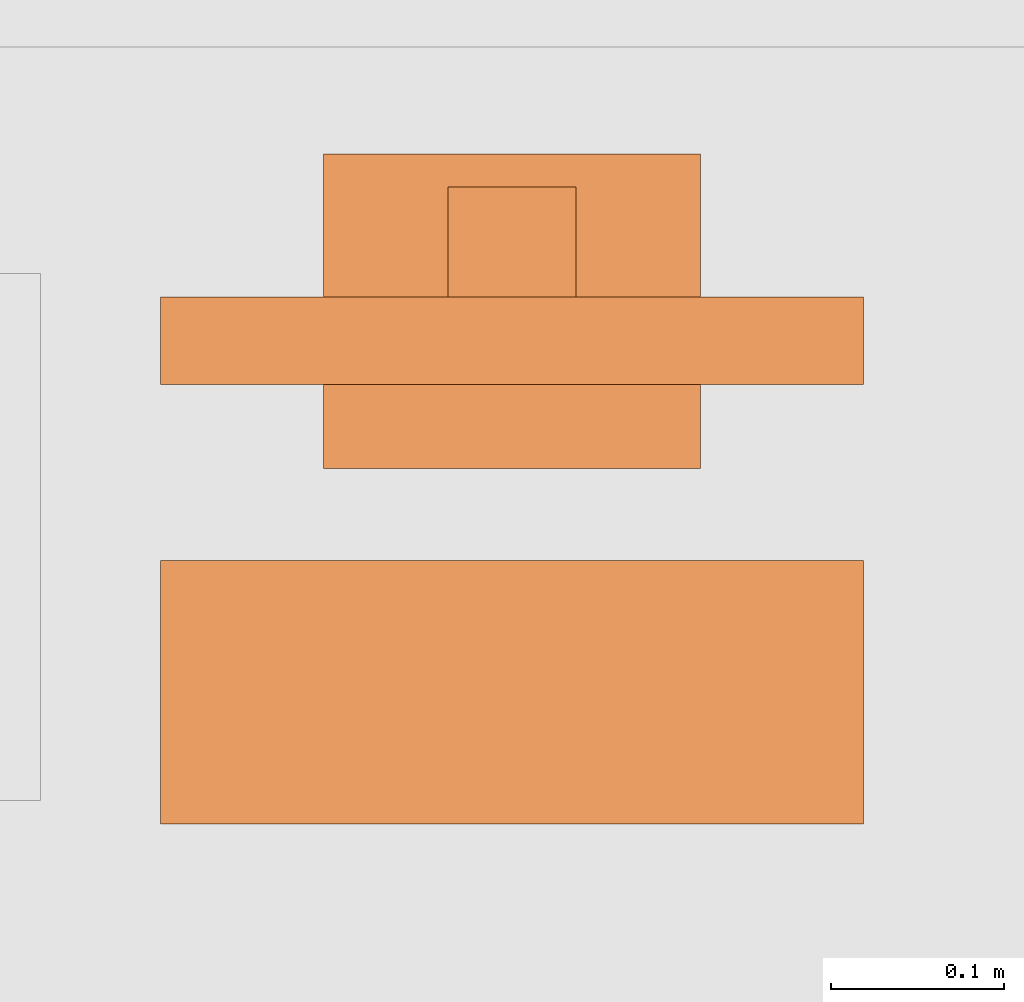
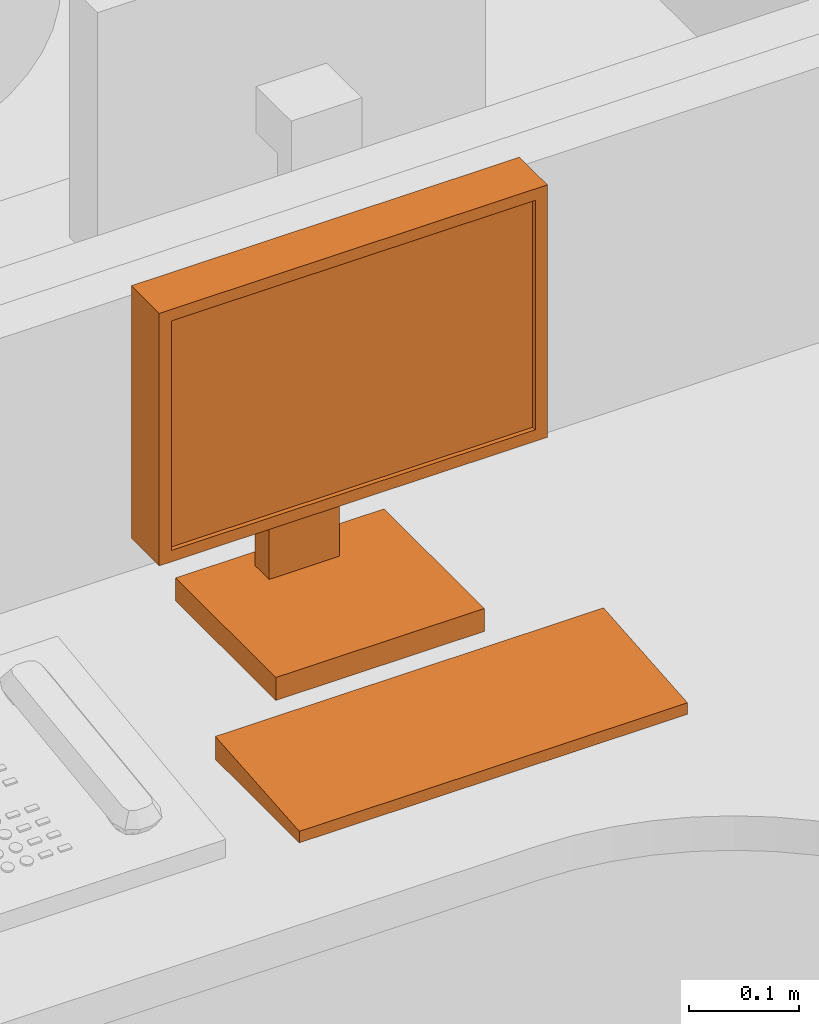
# One storey, part 97 of 142: 1 proxy.
"""IFC2X3 building model written with IfcOpenShell, lengths in feet."""

from ifc_helpers import new_model, entity, si_unit, converted_unit, derived_unit, direction, frame, origin, place, context, subcontext, project, spatial, faceted_brep, source, transform, mapped, type_object, type_shapes, element, save


model = new_model("IFC2X3")

# Units and contexts
model_context = context("Model", 3, precision=0.0001, world=origin(), true_north=direction((6.12303176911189e-17, 1.0)))
body_context = subcontext(model_context, "Body", "Model", "MODEL_VIEW")
ifc_project = project(units=[converted_unit("LENGTHUNIT", "FOOT", entity("IfcRatioMeasure", 0.3048), si_unit("LENGTHUNIT", "METRE"), dimensions=[1, 0, 0, 0, 0, 0, 0]), converted_unit("AREAUNIT", "SQUARE FOOT", entity("IfcRatioMeasure", 0.09290304), si_unit("AREAUNIT", "SQUARE_METRE"), dimensions=[2, 0, 0, 0, 0, 0, 0]), converted_unit("VOLUMEUNIT", "CUBIC FOOT", entity("IfcRatioMeasure", 0.028316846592), si_unit("VOLUMEUNIT", "CUBIC_METRE"), dimensions=[3, 0, 0, 0, 0, 0, 0]), converted_unit("PLANEANGLEUNIT", "DEGREE", entity("IfcRatioMeasure", 0.0174532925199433), si_unit("PLANEANGLEUNIT", "RADIAN"), dimensions=[0, 0, 0, 0, 0, 0, 0]), si_unit("MASSUNIT", "GRAM", prefix="KILO"), derived_unit("MASSDENSITYUNIT", [(si_unit("MASSUNIT", "GRAM", prefix="KILO"), 1), (si_unit("LENGTHUNIT", "METRE"), -3)]), si_unit("TIMEUNIT", "SECOND"), si_unit("FREQUENCYUNIT", "HERTZ"), si_unit("THERMODYNAMICTEMPERATUREUNIT", "DEGREE_CELSIUS"), derived_unit("THERMALTRANSMITTANCEUNIT", [(si_unit("MASSUNIT", "GRAM", prefix="KILO"), 1), (si_unit("THERMODYNAMICTEMPERATUREUNIT", "KELVIN"), -1), (si_unit("TIMEUNIT", "SECOND"), -3)]), derived_unit("VOLUMETRICFLOWRATEUNIT", [(si_unit("LENGTHUNIT", "METRE"), 3), (si_unit("TIMEUNIT", "SECOND"), -1)]), si_unit("ELECTRICCURRENTUNIT", "AMPERE"), si_unit("ELECTRICVOLTAGEUNIT", "VOLT"), si_unit("POWERUNIT", "WATT"), si_unit("FORCEUNIT", "NEWTON"), si_unit("ILLUMINANCEUNIT", "LUX"), si_unit("LUMINOUSFLUXUNIT", "LUMEN"), si_unit("LUMINOUSINTENSITYUNIT", "CANDELA"), derived_unit("USERDEFINED", [(si_unit("MASSUNIT", "GRAM", prefix="KILO"), -1), (si_unit("LENGTHUNIT", "METRE"), -2), (si_unit("TIMEUNIT", "SECOND"), 3), (si_unit("LUMINOUSFLUXUNIT", "LUMEN"), 1)]), derived_unit("LINEARVELOCITYUNIT", [(si_unit("LENGTHUNIT", "METRE"), 1), (si_unit("TIMEUNIT", "SECOND"), -1)]), si_unit("PRESSUREUNIT", "PASCAL"), derived_unit("USERDEFINED", [(si_unit("LENGTHUNIT", "METRE"), -2), (si_unit("MASSUNIT", "GRAM", prefix="KILO"), 1), (si_unit("TIMEUNIT", "SECOND"), -2)])], contexts=[model_context])

# Site, building, storey, space
site_placement = place(None, origin())
site = spatial("IfcSite", under=ifc_project, at=site_placement, Name="Default", CompositionType="ELEMENT")
building_placement = place(site_placement, origin())
building = spatial("IfcBuilding", under=site, at=building_placement, Name="OUTPATIENT / PACT CLINIC (Ch. 265)", CompositionType="ELEMENT")
storey_placement = place(building_placement, origin())
storey = spatial("IfcBuildingStorey", under=building, at=storey_placement, Name="LEVEL 1", CompositionType="ELEMENT", Elevation=0.0)
space_placement = place(storey_placement, origin())
space = spatial("IfcSpace", under=storey, at=space_placement, Name="WRTM1", CompositionType="ELEMENT", InteriorOrExteriorSpace="INTERNAL")

# Proxy
building_element_proxy_type = type_object("IfcBuildingElementProxyType", Name="M1801 - Computer with Flat Panel Monitor", PredefinedType="NOTDEFINED")
shared_shape = source(origin(), body_context, "Body", "Brep", [
    faceted_brep([(0.666666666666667, 0.5625, 0.0), (0.666666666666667, 0.5625, 0.0416666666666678), (0.666666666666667, 0.0624999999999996, 0.0833333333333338), (0.666666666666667, 0.0624999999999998, 0.0), (-0.666666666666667, 0.5625, 0.0), (-0.666666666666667, 0.0624999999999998, 0.0), (-0.666666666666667, 0.0624999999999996, 0.0833333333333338), (-0.666666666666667, 0.5625, 0.0416666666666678)], [[[0, 1, 2, 3]], [[4, 5, 6, 7]], [[3, 5, 4, 0]], [[2, 6, 5, 3]], [[1, 7, 6, 2]], [[0, 4, 7, 1]]]),
    faceted_brep([(0.666666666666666, -0.437223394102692, 1.41666666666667), (0.666666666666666, -0.271109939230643, 1.41666666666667), (-0.666666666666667, -0.271109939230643, 1.41666666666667), (-0.666666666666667, -0.437223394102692, 1.41666666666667), (0.666666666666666, -0.437223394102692, 0.500000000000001), (-0.666666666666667, -0.437223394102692, 0.500000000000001), (-0.666666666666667, -0.271109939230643, 0.500000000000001), (0.666666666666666, -0.271109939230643, 0.500000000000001), (-0.625, -0.271109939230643, 1.375), (-0.625, -0.271109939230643, 0.541666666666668), (0.625, -0.271109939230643, 0.541666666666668), (0.625, -0.271109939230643, 1.375), (0.625, -0.286812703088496, 1.375), (-0.625, -0.286812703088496, 1.375), (0.625, -0.286812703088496, 0.541666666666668), (-0.625, -0.286812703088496, 0.541666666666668)], [[[0, 1, 2, 3]], [[4, 5, 6, 7]], [[3, 5, 4, 0]], [[2, 6, 5, 3]], [[8, 9, 10, 11], [1, 7, 6, 2]], [[0, 4, 7, 1]], [[12, 13, 8, 11]], [[14, 10, 9, 15]], [[12, 14, 15, 13]], [[13, 15, 9, 8]], [[11, 10, 14, 12]]], outer=[[True], [True], [True], [True], [False, True], [True], [True], [True], [True], [True], [True]]),
    faceted_brep([(0.358011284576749, -0.111770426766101, 0.0833333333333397), (0.358011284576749, -0.708333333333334, 0.0833333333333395), (0.358011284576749, -0.708333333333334, 0.0), (0.358011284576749, -0.111770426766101, 0.0), (-0.358011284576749, -0.708333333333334, 0.0833333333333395), (-0.358011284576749, -0.111770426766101, 0.0833333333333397), (-0.358011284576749, -0.111770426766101, 0.0), (-0.358011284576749, -0.708333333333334, 0.0), (0.12128795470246, -0.645556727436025, 0.104166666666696), (-0.12128795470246, -0.645556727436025, 0.104166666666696), (-0.12128795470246, -0.645556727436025, 0.0833333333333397), (0.12128795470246, -0.645556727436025, 0.0833333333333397), (0.12128795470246, -0.645556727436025, 0.958333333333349), (-0.12128795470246, -0.645556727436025, 0.958333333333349), (0.12128795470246, -0.437223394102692, 0.958333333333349), (-0.12128795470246, -0.437223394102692, 0.958333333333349), (0.12128795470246, -0.437223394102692, 0.791666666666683), (-0.12128795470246, -0.437223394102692, 0.791666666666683), (0.12128795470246, -0.562223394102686, 0.791666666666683), (-0.12128795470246, -0.562223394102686, 0.791666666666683), (0.12128795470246, -0.562223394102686, 0.0833333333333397), (-0.12128795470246, -0.562223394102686, 0.0833333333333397)], [[[0, 1, 2, 3]], [[4, 5, 6, 7]], [[8, 9, 10, 11]], [[12, 13, 9, 8]], [[14, 15, 13, 12]], [[16, 17, 15, 14]], [[18, 19, 17, 16]], [[20, 21, 19, 18]], [[11, 10, 21, 20], [0, 5, 4, 1]], [[3, 6, 5, 0]], [[2, 7, 6, 3]], [[1, 4, 7, 2]], [[20, 18, 16, 14, 12, 8, 11]], [[10, 9, 13, 15, 17, 19, 21]]], outer=[[True], [True], [True], [True], [True], [True], [True], [True], [False, True], [True], [True], [True], [True], [True]]),
])
type_shapes(building_element_proxy_type, [shared_shape])
proxy_placement = place(space_placement, frame((416.753530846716, -923.698016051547, 2.49999999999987), z_axis=(0.0, 0.0, 1.0), x_axis=(-1.0, 0.0, 0.0)))
element("IfcBuildingElementProxy", 1, at=proxy_placement, inside=space, type_object=building_element_proxy_type, Name="M1801 - Computer with Flat Panel Monitor:M1801 - Computer with Flat Panel Monitor", ObjectType="M1801 - Computer with Flat Panel Monitor", context=body_context, shape_type="MappedRepresentation", body=[
    mapped(shared_shape, transform((0.0, 0.0, 0.0), scale=1.0)),
])

save(model, "model.ifc")
